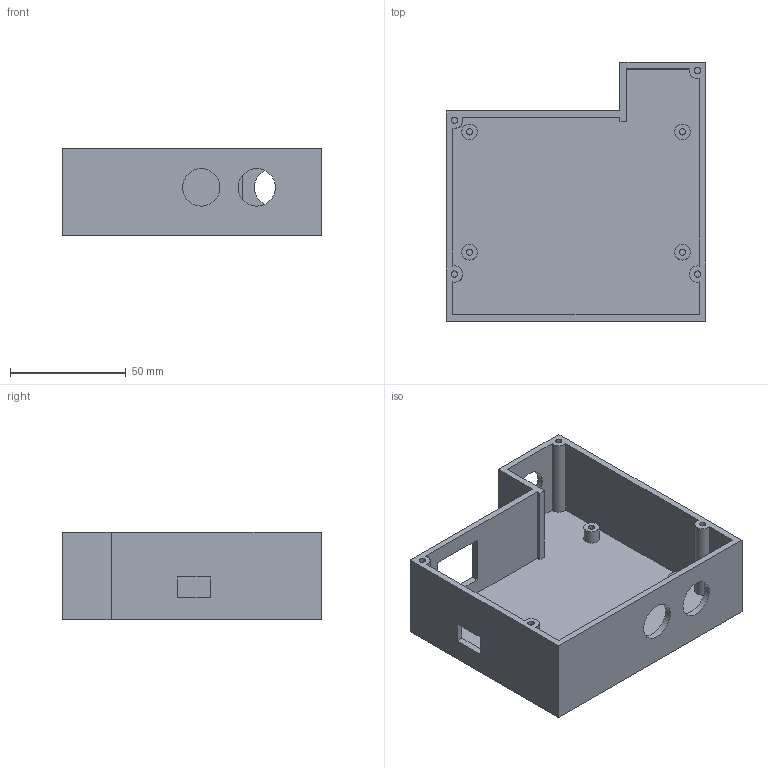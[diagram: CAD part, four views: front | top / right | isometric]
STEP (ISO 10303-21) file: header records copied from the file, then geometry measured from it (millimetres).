
FILE_DESCRIPTION(('FreeCAD Model'),'2;1');
FILE_NAME('Open CASCADE Shape Model','2026-11-16T14:52:48',('FreeCAD'),( 'FreeCAD'),'Open CASCADE STEP processor 7.9','FreeCAD','Unknown');
FILE_SCHEMA(('AUTOMOTIVE_DESIGN { 1 0 10303 214 1 1 1 1 }'));
Length unit declared in the file: millimetre
Products named in the file (1): Open CASCADE STEP translator 7.9 1
Bounding box: 112 x 112 x 38 mm (x, y, z)
Volume: 73777.9 mm3; surface area: 53690 mm2
Topology: 1 solids, 1 shells, 58 faces, 148 edges, 105 vertices
Faces by surface type: plane 39, cylinder 19
Full cylindrical faces by diameter (mm): 2.7 x8, 6.8 x4, 16.2 x3
Entity records: 1826 total; most frequent: DIRECTION 318, CARTESIAN_POINT 312, ORIENTED_EDGE 296, EDGE_CURVE 148, AXIS2_PLACEMENT_3D 111, VERTEX_POINT 105, LINE 96, VECTOR 96
